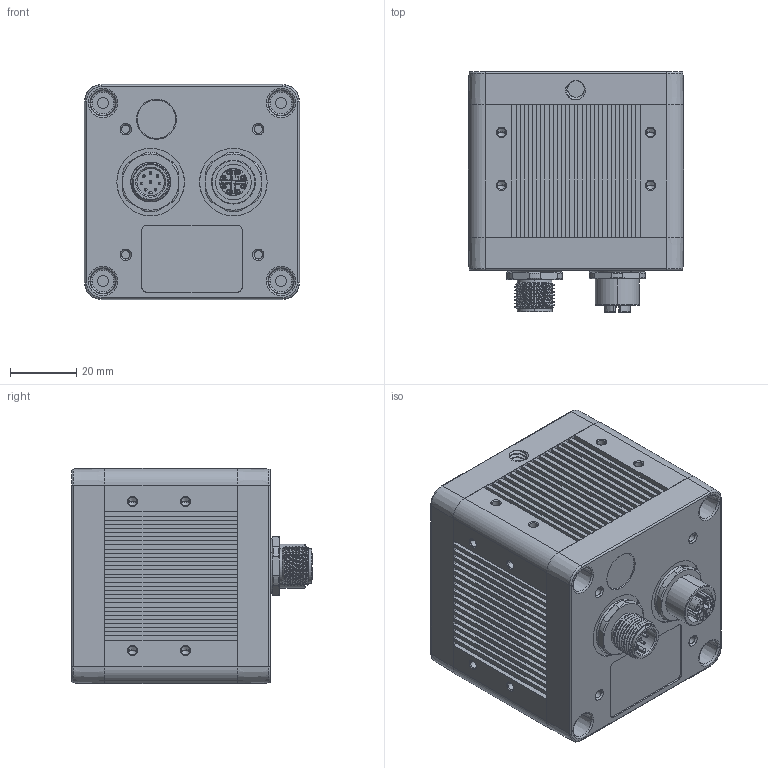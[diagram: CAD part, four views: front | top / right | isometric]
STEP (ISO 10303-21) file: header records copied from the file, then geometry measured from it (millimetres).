
FILE_DESCRIPTION((''),'2;1');
FILE_NAME('DCAM560C_43D_ASM','2022-06-17T11:21:33',('Lincoln'),(''),'CREO PARAMETRIC BY PTC INC, 2018260','CREO PARAMETRIC BY PTC INC, 2018260','');
FILE_SCHEMA(('CONFIG_CONTROL_DESIGN','GEOMETRIC_VALIDATION_PROPERTIES_MIM'));
Length unit declared in the file: millimetre
Products named in the file (4): 43D_560C_MIDDLE_COVER; 43D_BACK_COVER_3TH_HC; 43D_TOP_COVER_DS77; DCAM560C_43D_ASM
Assembly tree (3 placements, depth 2):
  DCAM560C_43D_ASM
    43D_560C_MIDDLE_COVER
    43D_BACK_COVER_3TH_HC
    43D_TOP_COVER_DS77
Bounding box: 65 x 72.65 x 65 mm (x, y, z)
Volume: 245340.5 mm3; surface area: 54428.1 mm2
Topology: 5 solids, 7 shells, 1129 faces, 2975 edges, 1910 vertices
Faces by surface type: plane 549, cylinder 276, cone 183, torus 84, bspline 21, sphere 16
Entity records: 43036 total; most frequent: CARTESIAN_POINT 13855, ORIENTED_EDGE 5814, DIRECTION 5804, EDGE_CURVE 2907, AXIS2_PLACEMENT_3D 2045, VERTEX_POINT 1870, VECTOR 1714, LINE 1714
